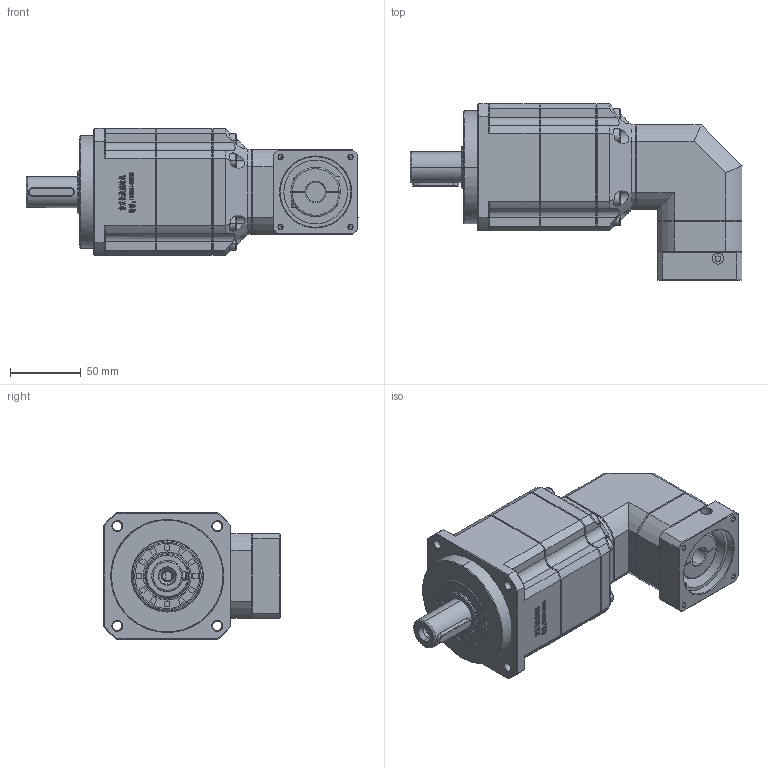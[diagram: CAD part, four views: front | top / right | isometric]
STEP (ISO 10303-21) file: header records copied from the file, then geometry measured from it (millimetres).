
FILE_DESCRIPTION (( 'STEP AP214' ), '1' );
FILE_NAME ('ZPBR090-D22-L3-P1-14-50-70-M4.step', '2024-06-07T18:37:32', ( 'Windows 蚚誧' ), ( 'Organization' ), 'SwSTEP 2.0', 'SolidWorks 2016', '' );
FILE_SCHEMA (( 'AUTOMOTIVE_DESIGN' ));
Length unit declared in the file: millimetre
Products named in the file (1): ZPBR090-D22-L3-P1-14-50-70-M4
Bounding box: 235 x 125 x 90 mm (x, y, z)
Surface area: 100823.4 mm2 (no closed solid volume)
Topology: 0 solids, 30 shells, 2090 faces, 5509 edges, 3505 vertices
Faces by surface type: plane 1119, bspline 371, cylinder 295, cone 278, torus 27
Entity records: 102116 total; most frequent: CARTESIAN_POINT 51541, ORIENTED_EDGE 10980, DIRECTION 7401, EDGE_CURVE 5509, VERTEX_POINT 3505, LINE 2589, VECTOR 2589, AXIS2_PLACEMENT_3D 2406
